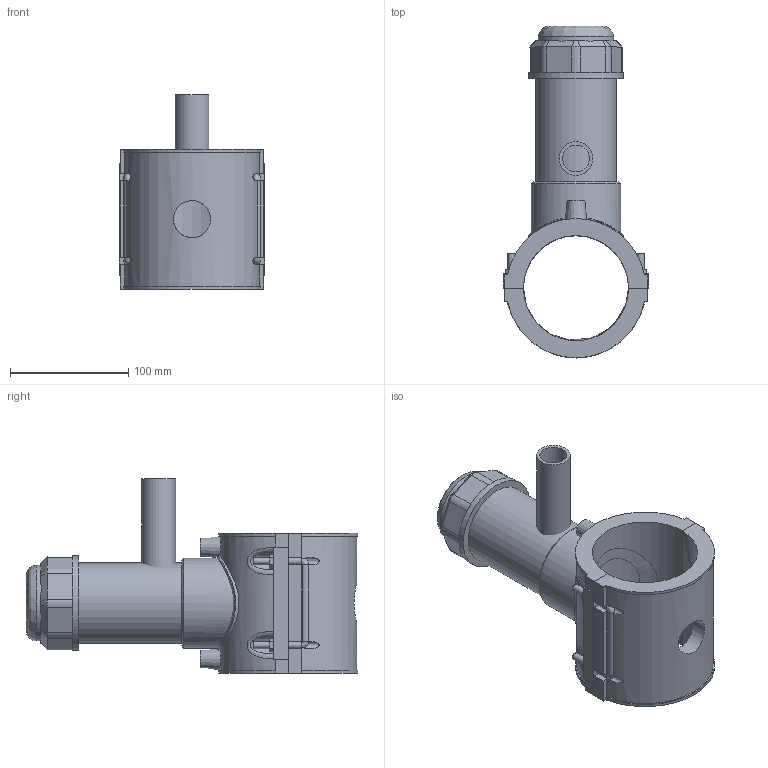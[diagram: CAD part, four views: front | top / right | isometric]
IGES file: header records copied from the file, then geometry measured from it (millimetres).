
Global section: file name: 5963BUP3030010.ipt; native system: Autodesk Inventor 2019; preprocessor: unknown; author: KIM; date: 20210830.101615; units: inch
Bounding box: 122.9 x 280.2 x 163.96 mm (x, y, z)
Volume: 941762.6 mm3; surface area: 195956 mm2
Topology: 3 solids, 3 shells, 204 faces, 526 edges, 343 vertices
Faces by surface type: plane 125, cylinder 37, revolution 21, cone 15, bspline 6
Full cylindrical faces by diameter (mm): 4 x2, 6 x8, 28.45 x1, 63.864 x1, 67.856 x1, 75.839 x1, 79.83 x1
